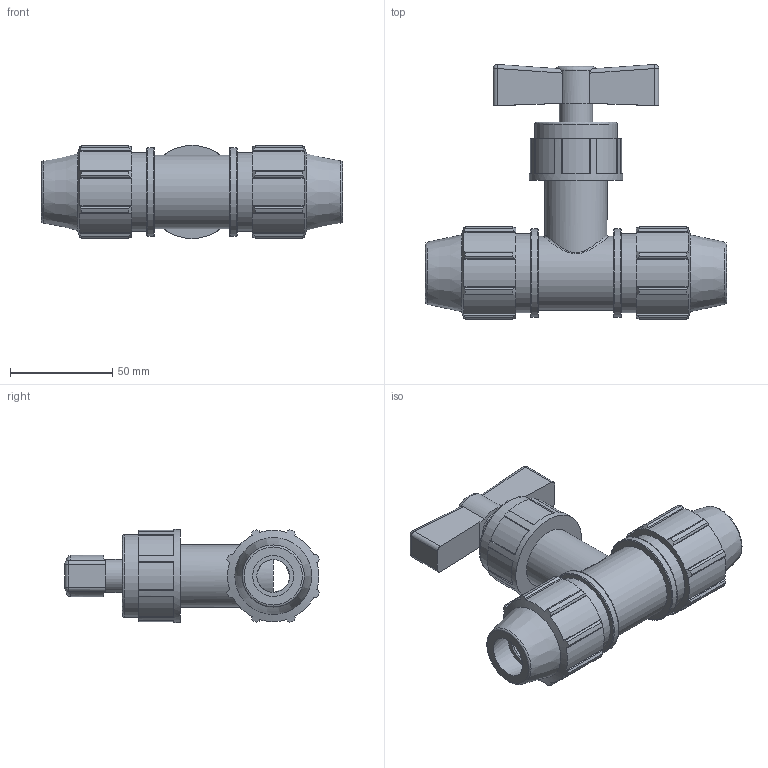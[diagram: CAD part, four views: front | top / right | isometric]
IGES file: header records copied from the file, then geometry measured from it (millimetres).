
Global section: file name: 03407020.ipt; native system: Autodesk Inventor 2015; preprocessor: unknown; author: KIM; date: 20170618.093047; units: millimetre
Bounding box: 147 x 124.49 x 45.45 mm (x, y, z)
Volume: 230426.5 mm3; surface area: 46787.5 mm2
Topology: 1 solids, 1 shells, 235 faces, 657 edges, 439 vertices
Faces by surface type: plane 132, cylinder 63, cone 20, revolution 15, sphere 4, bspline 1
Full cylindrical faces by diameter (mm): 16.16 x1, 30.3 x1, 36 x1, 38.4 x2, 40.4 x1, 43.2 x2, 45.45 x1
